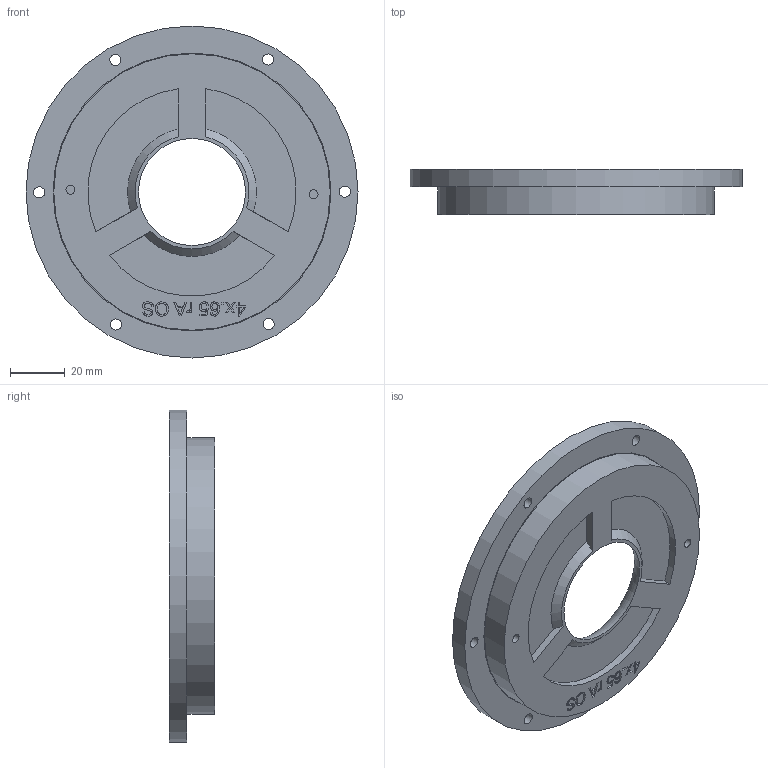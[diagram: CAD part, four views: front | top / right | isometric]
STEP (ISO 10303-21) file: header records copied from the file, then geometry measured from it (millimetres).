
FILE_DESCRIPTION(/* description */ (''),/* implementation_level */ '2;1');
FILE_NAME(/* name */ '4x.65 rA nops.step',/* time_stamp */ '2023-05-22T11:30:38-06:00',/* author */ (''),/* organization */ (''),/* preprocessor_version */ 'ST-DEVELOPER v19.2',/* originating_system */ 'Autodesk Translation Framework v12.4.0.73',/* authorisation */ '');
FILE_SCHEMA (('AUTOMOTIVE_DESIGN { 1 0 10303 214 3 1 1 }'));
Length unit declared in the file: inch
Products named in the file (1): 4x.65 rA OS SS
Bounding box: 121.41 x 16.51 x 121.41 mm (x, y, z)
Volume: 101844.7 mm3; surface area: 29131.4 mm2
Topology: 1 solids, 1 shells, 223 faces, 605 edges, 409 vertices
Faces by surface type: bspline 106, plane 91, cylinder 20, cone 3, torus 3
Full cylindrical faces by diameter (mm): 3.302 x2, 4.064 x6, 8.382 x6, 101.092 x1, 101.6 x1, 121.412 x1
Entity records: 8037 total; most frequent: CARTESIAN_POINT 3088, ORIENTED_EDGE 1210, DIRECTION 659, EDGE_CURVE 605, VERTEX_POINT 409, LINE 315, VECTOR 315, EDGE_LOOP 262
